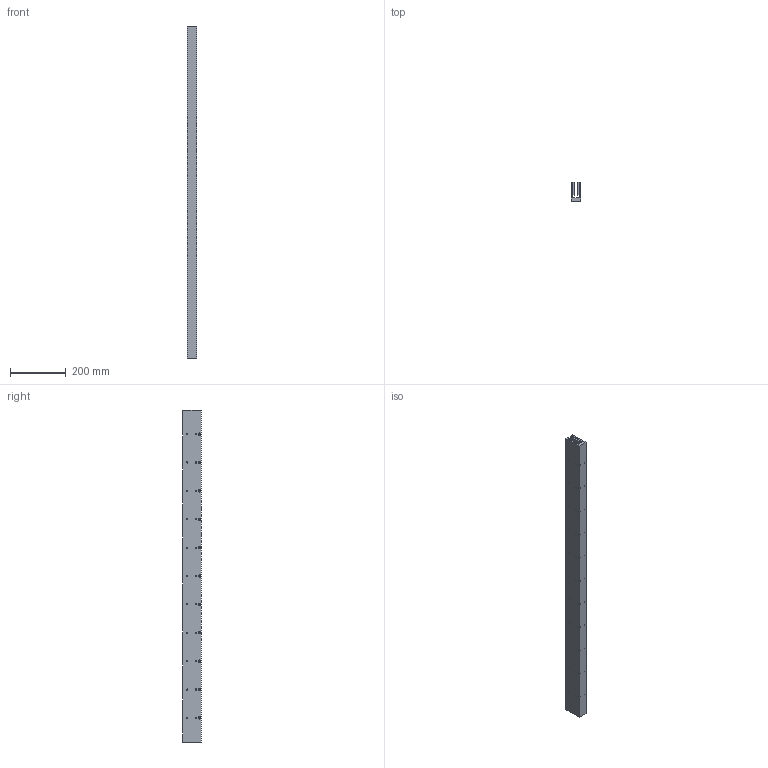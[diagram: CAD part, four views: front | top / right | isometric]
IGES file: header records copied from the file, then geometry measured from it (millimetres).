
Global section: file name: No Iges File Name specified; native system: Autodesk Inventor 2009; preprocessor: AutoDesk Inventor Iges Exporter R2009; author: je17857; date: 20091116.111620; units: inch
Bounding box: 34.29 x 67.31 x 1188.72 mm (x, y, z)
Volume: 1778380.8 mm3; surface area: 446783.3 mm2
Topology: 1 solids, 1 shells, 598 faces, 1422 edges, 948 vertices
Faces by surface type: plane 422, bspline 176
